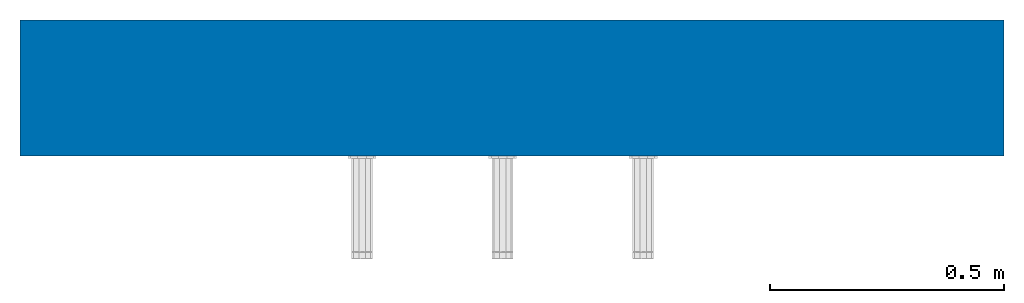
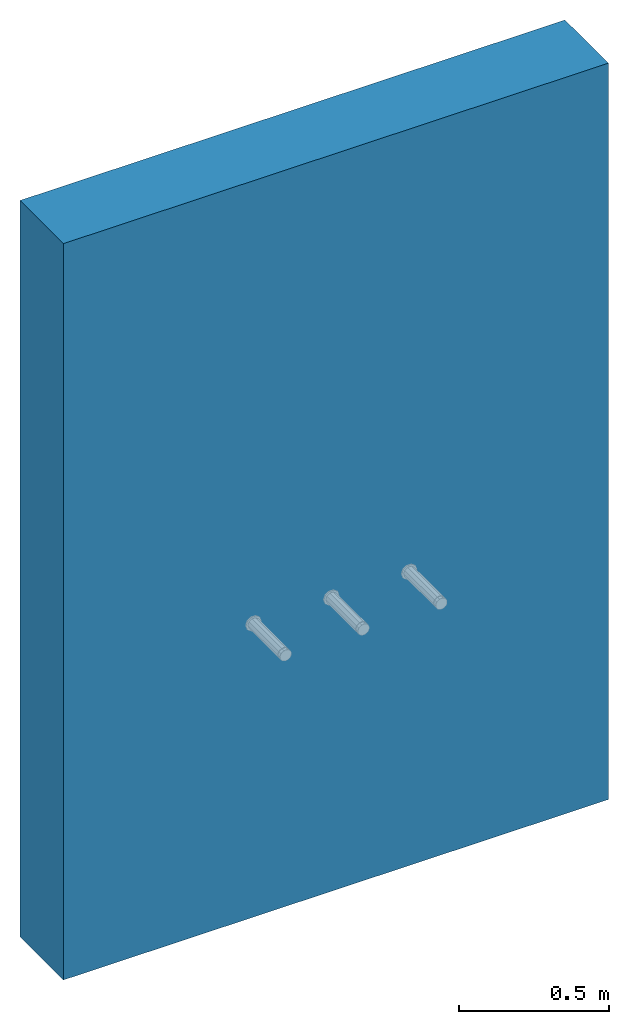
# One storey, incomplete: 1 wall.
"""IFC2X3 building model written with IfcOpenShell, lengths in millimetres."""

from ifc_helpers import new_model, entity, si_unit, converted_unit, derived_unit, direction, frame, frame_2d, origin, place, context, subcontext, project, spatial, rectangle, extrude, material, layer, layer_set, layer_usage, type_object, element, save


model = new_model("IFC2X3")

# Units and contexts
model_context = context("Model", 3, precision=0.01, world=origin(), true_north=direction((6.12303176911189e-17, 1.0)))
body_context = subcontext(model_context, "Body", "Model", "MODEL_VIEW")
ifc_project = project(units=[si_unit("LENGTHUNIT", "METRE", prefix="MILLI"), si_unit("AREAUNIT", "SQUARE_METRE"), si_unit("VOLUMEUNIT", "CUBIC_METRE"), converted_unit("PLANEANGLEUNIT", "DEGREE", entity("IfcRatioMeasure", 0.0174532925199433), si_unit("PLANEANGLEUNIT", "RADIAN"), dimensions=[0, 0, 0, 0, 0, 0, 0]), si_unit("MASSUNIT", "GRAM", prefix="KILO"), derived_unit("MASSDENSITYUNIT", [(si_unit("MASSUNIT", "GRAM", prefix="KILO"), 1), (si_unit("LENGTHUNIT", "METRE"), -3)]), si_unit("TIMEUNIT", "SECOND"), si_unit("FREQUENCYUNIT", "HERTZ"), si_unit("THERMODYNAMICTEMPERATUREUNIT", "DEGREE_CELSIUS"), derived_unit("THERMALTRANSMITTANCEUNIT", [(si_unit("MASSUNIT", "GRAM", prefix="KILO"), 1), (si_unit("THERMODYNAMICTEMPERATUREUNIT", "KELVIN"), -1), (si_unit("TIMEUNIT", "SECOND"), -3)]), derived_unit("VOLUMETRICFLOWRATEUNIT", [(si_unit("LENGTHUNIT", "METRE"), 3), (si_unit("TIMEUNIT", "SECOND"), -1)]), si_unit("ELECTRICCURRENTUNIT", "AMPERE"), si_unit("ELECTRICVOLTAGEUNIT", "VOLT"), si_unit("POWERUNIT", "WATT"), si_unit("FORCEUNIT", "NEWTON", prefix="KILO"), si_unit("ILLUMINANCEUNIT", "LUX"), si_unit("LUMINOUSFLUXUNIT", "LUMEN"), si_unit("LUMINOUSINTENSITYUNIT", "CANDELA"), derived_unit("USERDEFINED", [(si_unit("MASSUNIT", "GRAM", prefix="KILO"), -1), (si_unit("LENGTHUNIT", "METRE"), -2), (si_unit("TIMEUNIT", "SECOND"), 3), (si_unit("LUMINOUSFLUXUNIT", "LUMEN"), 1)]), derived_unit("LINEARVELOCITYUNIT", [(si_unit("LENGTHUNIT", "METRE"), 1), (si_unit("TIMEUNIT", "SECOND"), -1)]), si_unit("PRESSUREUNIT", "PASCAL"), derived_unit("USERDEFINED", [(si_unit("LENGTHUNIT", "METRE"), -2), (si_unit("MASSUNIT", "GRAM", prefix="KILO"), 1), (si_unit("TIMEUNIT", "SECOND"), -2)])], contexts=[model_context])

# Site, building, storey
site_placement = place(None, origin())
site = spatial("IfcSite", under=ifc_project, at=site_placement, Name="Default", CompositionType="ELEMENT")
building_placement = place(site_placement, origin())
building = spatial("IfcBuilding", under=site, at=building_placement, CompositionType="ELEMENT")
storey_placement = place(building_placement, origin())
storey = spatial("IfcBuildingStorey", under=building, at=storey_placement, Name="Level 0", CompositionType="ELEMENT", Elevation=0.0)

# Wall
ifc_material_1 = material(Name="Brick, Common")
ifc_layer_1 = layer(ifc_material_1, 102.5)
ifc_material_2 = material(Name="Fiberglass Batt")
ifc_layer_2 = layer(ifc_material_2, 75.0)
ifc_material_3 = material(Name="Concrete Masonry Units _Low Density")
ifc_layer_3 = layer(ifc_material_3, 100.0)
ifc_material_4 = material(Name="Plaster")
ifc_layer_4 = layer(ifc_material_4, 12.5)
ifc_layer_set = layer_set([ifc_layer_1, ifc_layer_2, ifc_layer_3, ifc_layer_4], Name="Basic Wall:Wall-Ext_102Bwk-75Ins-100LBlk-12P")
ifc_layer_usage = layer_usage(ifc_layer_set, "AXIS2", "NEGATIVE", 145.0)
wall_type = type_object("IfcWallType", Name="Basic Wall:Wall-Ext_102Bwk-75Ins-100LBlk-12P", PredefinedType="STANDARD", material=ifc_layer_set)
wall_placement = place(storey_placement, frame((-4782.45576601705, 1077.68968647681, 0.0)))
element("IfcWallStandardCase", 1, at=wall_placement, inside=storey, type_object=wall_type, material=ifc_layer_usage, Name="Basic Wall:Wall-Ext_102Bwk-75Ins-100LBlk-12P", ObjectType="Basic Wall:Wall-Ext_102Bwk-75Ins-100LBlk-12P", context=body_context, shape_type="SweptSolid", body=[
    extrude(rectangle(XDim=2100.0, YDim=290.0, at=frame_2d((1050.0, 1.4210854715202e-14), x_axis=(-1.0, 0.0))), origin(), (0.0, 0.0, 1.0), 3000.0),
])

save(model, "model.ifc")
